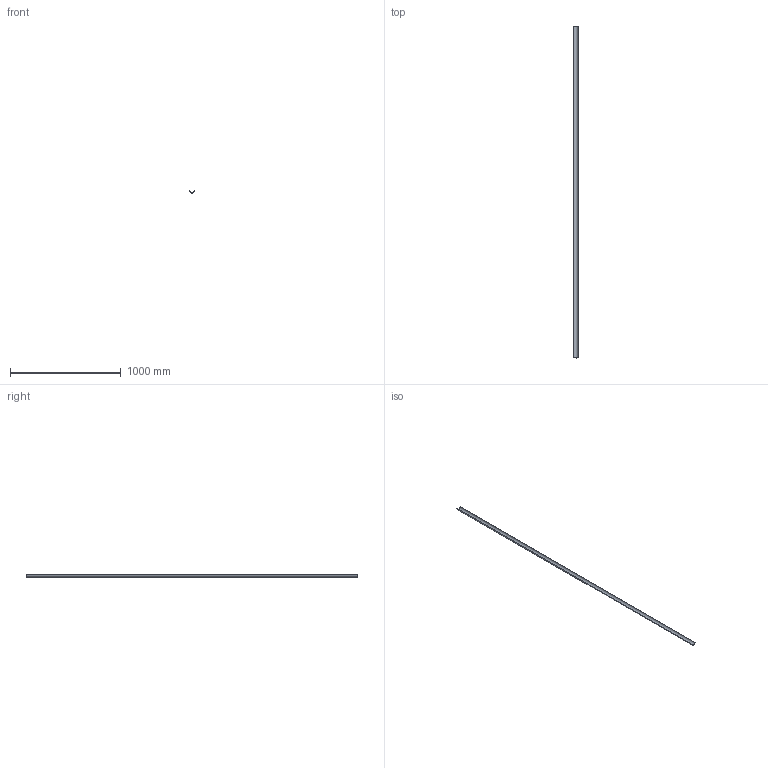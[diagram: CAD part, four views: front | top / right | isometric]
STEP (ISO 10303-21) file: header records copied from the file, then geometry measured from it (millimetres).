
FILE_DESCRIPTION(/* description */ (''),/* implementation_level */ '2;1');
FILE_NAME(/* name */ 'Z:\Geberit\Export\NewStep\360850.stp',/* time_stamp */ '2014-04-01T21:02:20+02:00',/* author */ ('bruh'),/* organization */ (''),/* preprocessor_version */ 'ST-DEVELOPER v15.2',/* originating_system */ 'Autodesk Inventor 2014',/* authorisation */ '');
FILE_SCHEMA (('AUTOMOTIVE_DESIGN { 1 0 10303 214 3 1 1 }'));
Length unit declared in the file: millimetre
Products named in the file (1): 360850
Bounding box: 41.5 x 3000 x 20.75 mm (x, y, z)
Volume: 144022.4 mm3; surface area: 388655.7 mm2
Topology: 1 solids, 1 shells, 6 faces, 12 edges, 8 vertices
Faces by surface type: plane 4, cylinder 2
Entity records: 187 total; most frequent: DIRECTION 30, CARTESIAN_POINT 27, ORIENTED_EDGE 24, EDGE_CURVE 12, AXIS2_PLACEMENT_3D 11, LINE 8, VECTOR 8, VERTEX_POINT 8
